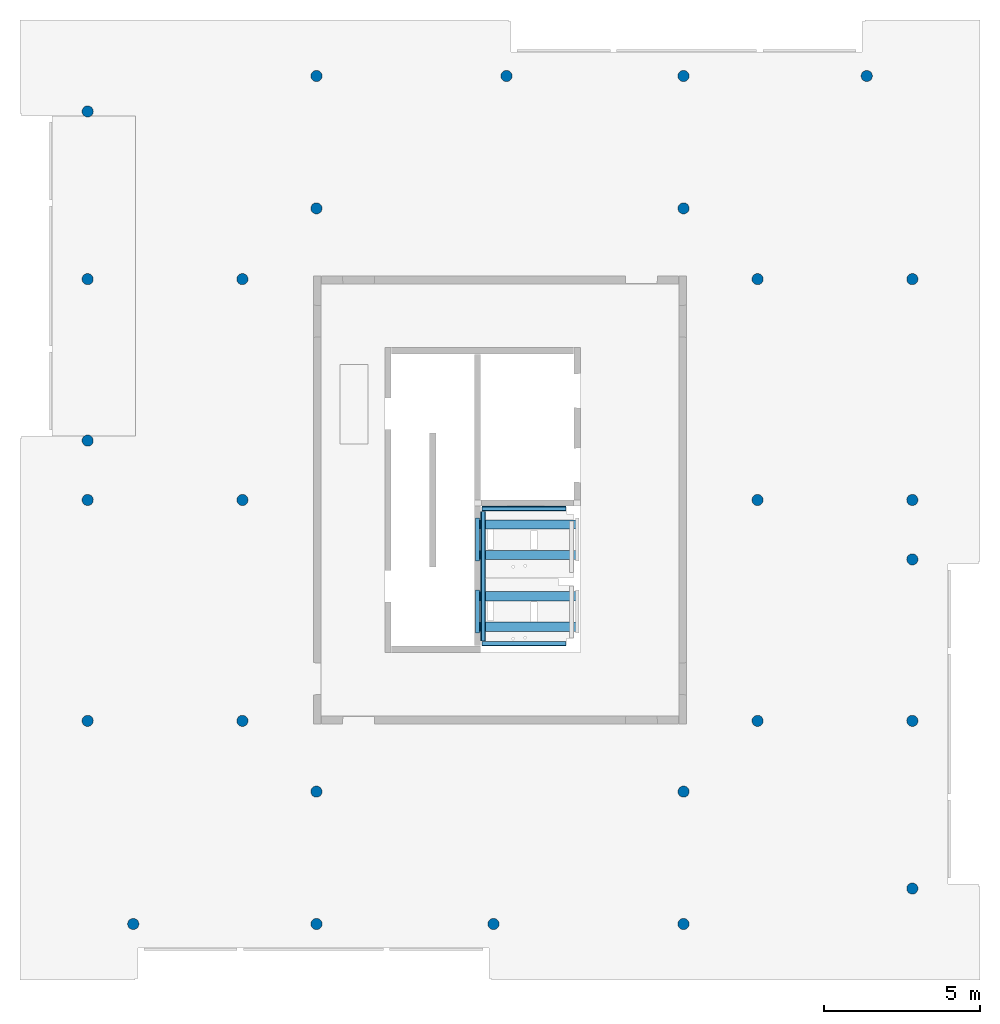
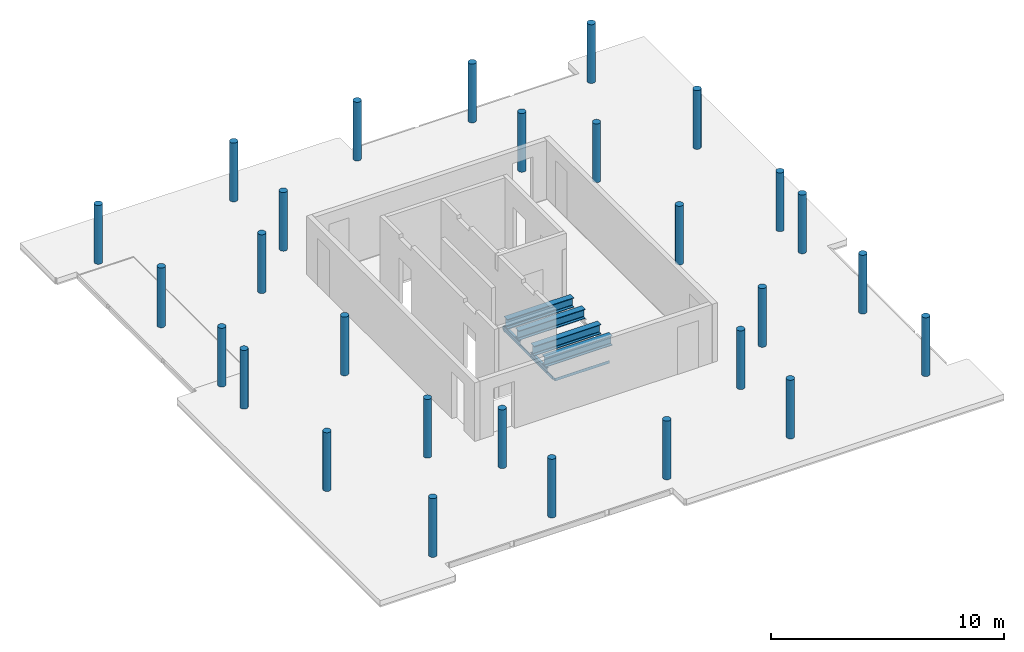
# One storey, part 1 of 4: 28 columns, 9 beams.
"""IFC2X3 building model written with IfcOpenShell, lengths in millimetres."""

from ifc_helpers import new_model, entity, si_unit, converted_unit, derived_unit, direction, frame, frame_2d, origin, origin_2d_with_axis, place, context, subcontext, project, spatial, polyline, circle_curve, parameter, trimmed, segment, composite_curve, circle, i_section, outline, extrude, source, transform, mapped, material, type_object, type_shapes, element, save


model = new_model("IFC2X3")

# Units and contexts
model_context = context("Model", 3, precision=0.01, world=origin(), true_north=direction((6.12303176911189e-17, 1.0)))
body_context = subcontext(model_context, "Body", "Model", "MODEL_VIEW")
ifc_project = project(units=[si_unit("LENGTHUNIT", "METRE", prefix="MILLI"), si_unit("AREAUNIT", "SQUARE_METRE"), si_unit("VOLUMEUNIT", "CUBIC_METRE"), converted_unit("PLANEANGLEUNIT", "DEGREE", entity("IfcRatioMeasure", 0.0174532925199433), si_unit("PLANEANGLEUNIT", "RADIAN"), dimensions=[0, 0, 0, 0, 0, 0, 0]), si_unit("MASSUNIT", "GRAM", prefix="KILO"), derived_unit("MASSDENSITYUNIT", [(si_unit("MASSUNIT", "GRAM", prefix="KILO"), 1), (si_unit("LENGTHUNIT", "METRE"), -3)]), si_unit("TIMEUNIT", "SECOND"), si_unit("FREQUENCYUNIT", "HERTZ"), si_unit("THERMODYNAMICTEMPERATUREUNIT", "DEGREE_CELSIUS"), derived_unit("THERMALTRANSMITTANCEUNIT", [(si_unit("MASSUNIT", "GRAM", prefix="KILO"), 1), (si_unit("THERMODYNAMICTEMPERATUREUNIT", "KELVIN"), -1), (si_unit("TIMEUNIT", "SECOND"), -3)]), derived_unit("VOLUMETRICFLOWRATEUNIT", [(si_unit("LENGTHUNIT", "METRE"), 3), (si_unit("TIMEUNIT", "SECOND"), -1)]), si_unit("ELECTRICCURRENTUNIT", "AMPERE"), si_unit("ELECTRICVOLTAGEUNIT", "VOLT"), si_unit("POWERUNIT", "WATT"), si_unit("FORCEUNIT", "NEWTON", prefix="KILO"), si_unit("ILLUMINANCEUNIT", "LUX"), si_unit("LUMINOUSFLUXUNIT", "LUMEN"), si_unit("LUMINOUSINTENSITYUNIT", "CANDELA"), derived_unit("USERDEFINED", [(si_unit("MASSUNIT", "GRAM", prefix="KILO"), -1), (si_unit("LENGTHUNIT", "METRE"), -2), (si_unit("TIMEUNIT", "SECOND"), 3), (si_unit("LUMINOUSFLUXUNIT", "LUMEN"), 1)]), derived_unit("LINEARVELOCITYUNIT", [(si_unit("LENGTHUNIT", "METRE"), 1), (si_unit("TIMEUNIT", "SECOND"), -1)]), si_unit("PRESSUREUNIT", "PASCAL"), derived_unit("USERDEFINED", [(si_unit("LENGTHUNIT", "METRE"), -2), (si_unit("MASSUNIT", "GRAM", prefix="KILO"), 1), (si_unit("TIMEUNIT", "SECOND"), -2)])], contexts=[model_context])

# Site, building, storey
site_placement = place(None, origin())
site = spatial("IfcSite", under=ifc_project, at=site_placement, Name="Default", CompositionType="ELEMENT")
building_placement = place(site_placement, origin())
building = spatial("IfcBuilding", under=site, at=building_placement, Name="niet gebruiken", CompositionType="ELEMENT")
storey_placement = place(building_placement, frame((0.0, 0.0, 175180.0)))
storey = spatial("IfcBuildingStorey", under=building, at=storey_placement, Name="56 zesenvijftigste verdieping", CompositionType="ELEMENT", Elevation=175180.0)

# Columns
ifc_material_1 = material(Name="NLRS_f2_beton prefab")
column_type_1 = type_object("IfcColumnType", Name="ø360", PredefinedType="COLUMN", material=ifc_material_1)
shared_shape_1 = source(origin(), body_context, "Body", "SweptSolid", [
    extrude(circle(Radius=179.999999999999, at=origin_2d_with_axis()), frame((135850.0, 31130.0, 175110.0), z_axis=(0.0, 0.0, 1.0), x_axis=(0.0, -1.0, 0.0)), (0.0, 0.0, 1.0), 3070.0),
])
type_shapes(column_type_1, [shared_shape_1])
column_1_placement = place(storey_placement, frame((0.0, 0.0, -175180.0)))
element("IfcColumn", 1, at=column_1_placement, inside=storey, type_object=column_type_1, material=ifc_material_1, Name="NLRS_28. kolom rond_gen:ø360", ObjectType="ø360", context=body_context, shape_type="MappedRepresentation", body=[
    mapped(shared_shape_1, transform((0.0, 0.0, 0.0), scale=1.0)),
])
column_type_2 = type_object("IfcColumnType", Name="ø360", PredefinedType="COLUMN", material=ifc_material_1)
shared_shape_2 = source(origin(), body_context, "Body", "SweptSolid", [
    extrude(circle(Radius=179.999999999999, at=origin_2d_with_axis()), frame((141960.0, 31130.0, 175110.0), z_axis=(0.0, 0.0, 1.0), x_axis=(0.0, -1.0, 0.0)), (0.0, 0.0, 1.0), 3070.0),
])
type_shapes(column_type_2, [shared_shape_2])
column_2_placement = place(storey_placement, frame((0.0, 0.0, -175180.0)))
element("IfcColumn", 2, at=column_2_placement, inside=storey, type_object=column_type_2, material=ifc_material_1, Name="NLRS_28. kolom rond_gen:ø360", ObjectType="ø360", context=body_context, shape_type="MappedRepresentation", body=[
    mapped(shared_shape_2, transform((0.0, 0.0, 0.0), scale=1.0)),
])
column_type_3 = type_object("IfcColumnType", Name="ø360", PredefinedType="COLUMN", material=ifc_material_1)
shared_shape_3 = source(origin(), body_context, "Body", "SweptSolid", [
    extrude(circle(Radius=179.999999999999, at=origin_2d_with_axis()), frame((147650.0, 31130.0, 175110.0), z_axis=(0.0, 0.0, 1.0), x_axis=(0.0, -1.0, 0.0)), (0.0, 0.0, 1.0), 3070.0),
])
type_shapes(column_type_3, [shared_shape_3])
column_3_placement = place(storey_placement, frame((0.0, 0.0, -175180.0)))
element("IfcColumn", 3, at=column_3_placement, inside=storey, type_object=column_type_3, material=ifc_material_1, Name="NLRS_28. kolom rond_gen:ø360", ObjectType="ø360", context=body_context, shape_type="MappedRepresentation", body=[
    mapped(shared_shape_3, transform((0.0, 0.0, 0.0), scale=1.0)),
])
column_type_4 = type_object("IfcColumnType", Name="ø360", PredefinedType="COLUMN", material=ifc_material_1)
shared_shape_4 = source(origin(), body_context, "Body", "SweptSolid", [
    extrude(circle(Radius=179.999999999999, at=origin_2d_with_axis()), frame((153540.0, 31130.0, 175110.0), z_axis=(0.0, 0.0, 1.0), x_axis=(0.0, -1.0, 0.0)), (0.0, 0.0, 1.0), 3070.0),
])
type_shapes(column_type_4, [shared_shape_4])
column_4_placement = place(storey_placement, frame((0.0, 0.0, -175180.0)))
element("IfcColumn", 4, at=column_4_placement, inside=storey, type_object=column_type_4, material=ifc_material_1, Name="NLRS_28. kolom rond_gen:ø360", ObjectType="ø360", context=body_context, shape_type="MappedRepresentation", body=[
    mapped(shared_shape_4, transform((0.0, 0.0, 0.0), scale=1.0)),
])
column_type_5 = type_object("IfcColumnType", Name="ø360", PredefinedType="COLUMN", material=ifc_material_1)
shared_shape_5 = source(origin(), body_context, "Body", "SweptSolid", [
    extrude(circle(Radius=179.999999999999, at=origin_2d_with_axis()), frame((133470.0, 24600.0, 175110.0), z_axis=(0.0, 0.0, 1.0), x_axis=(0.0, -1.0, 0.0)), (0.0, 0.0, 1.0), 3070.0),
])
type_shapes(column_type_5, [shared_shape_5])
column_5_placement = place(storey_placement, frame((0.0, 0.0, -175180.0)))
element("IfcColumn", 5, at=column_5_placement, inside=storey, type_object=column_type_5, material=ifc_material_1, Name="NLRS_28. kolom rond_gen:ø360", ObjectType="ø360", context=body_context, shape_type="MappedRepresentation", body=[
    mapped(shared_shape_5, transform((0.0, 0.0, 0.0), scale=1.0)),
])
column_type_6 = type_object("IfcColumnType", Name="ø360", PredefinedType="COLUMN", material=ifc_material_1)
shared_shape_6 = source(origin(), body_context, "Body", "SweptSolid", [
    extrude(circle(Radius=179.999999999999, at=origin_2d_with_axis()), frame((128495.0, 24600.0, 175060.0), z_axis=(0.0, 0.0, 1.0), x_axis=(0.0, -1.0, 0.0)), (0.0, 0.0, 1.0), 3120.00000000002),
])
type_shapes(column_type_6, [shared_shape_6])
column_6_placement = place(storey_placement, frame((0.0, 0.0, -175180.0)))
element("IfcColumn", 6, at=column_6_placement, inside=storey, type_object=column_type_6, material=ifc_material_1, Name="NLRS_28. kolom rond_gen:ø360", ObjectType="ø360", context=body_context, shape_type="MappedRepresentation", body=[
    mapped(shared_shape_6, transform((0.0, 0.0, 0.0), scale=1.0)),
])
column_type_7 = type_object("IfcColumnType", Name="ø360", PredefinedType="COLUMN", material=ifc_material_1)
shared_shape_7 = source(origin(), body_context, "Body", "SweptSolid", [
    extrude(circle(Radius=179.999999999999, at=origin_2d_with_axis()), frame((155005.0, 24600.0, 175110.0), z_axis=(0.0, 0.0, 1.0), x_axis=(0.0, -1.0, 0.0)), (0.0, 0.0, 1.0), 3070.0),
])
type_shapes(column_type_7, [shared_shape_7])
column_7_placement = place(storey_placement, frame((0.0, 0.0, -175180.0)))
element("IfcColumn", 7, at=column_7_placement, inside=storey, type_object=column_type_7, material=ifc_material_1, Name="NLRS_28. kolom rond_gen:ø360", ObjectType="ø360", context=body_context, shape_type="MappedRepresentation", body=[
    mapped(shared_shape_7, transform((0.0, 0.0, 0.0), scale=1.0)),
])
column_type_8 = type_object("IfcColumnType", Name="ø360", PredefinedType="COLUMN", material=ifc_material_1)
shared_shape_8 = source(origin(), body_context, "Body", "SweptSolid", [
    extrude(circle(Radius=179.999999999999, at=origin_2d_with_axis()), frame((150030.0, 24600.0, 175110.0), z_axis=(0.0, 0.0, 1.0), x_axis=(0.0, -1.0, 0.0)), (0.0, 0.0, 1.0), 3070.0),
])
type_shapes(column_type_8, [shared_shape_8])
column_8_placement = place(storey_placement, frame((0.0, 0.0, -175180.0)))
element("IfcColumn", 8, at=column_8_placement, inside=storey, type_object=column_type_8, material=ifc_material_1, Name="NLRS_28. kolom rond_gen:ø360", ObjectType="ø360", context=body_context, shape_type="MappedRepresentation", body=[
    mapped(shared_shape_8, transform((0.0, 0.0, 0.0), scale=1.0)),
])
column_type_9 = type_object("IfcColumnType", Name="ø360", PredefinedType="COLUMN", material=ifc_material_1)
shared_shape_9 = source(origin(), body_context, "Body", "SweptSolid", [
    extrude(circle(Radius=179.999999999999, at=origin_2d_with_axis()), frame((147650.0, 26875.0, 175110.0), z_axis=(0.0, 0.0, 1.0), x_axis=(0.0, -1.0, 0.0)), (0.0, 0.0, 1.0), 3070.0),
])
type_shapes(column_type_9, [shared_shape_9])
column_9_placement = place(storey_placement, frame((0.0, 0.0, -175180.0)))
element("IfcColumn", 9, at=column_9_placement, inside=storey, type_object=column_type_9, material=ifc_material_1, Name="NLRS_28. kolom rond_gen:ø360", ObjectType="ø360", context=body_context, shape_type="MappedRepresentation", body=[
    mapped(shared_shape_9, transform((0.0, 0.0, 0.0), scale=1.0)),
])
column_type_10 = type_object("IfcColumnType", Name="ø360", PredefinedType="COLUMN", material=ifc_material_1)
shared_shape_10 = source(origin(), body_context, "Body", "SweptSolid", [
    extrude(circle(Radius=179.999999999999, at=origin_2d_with_axis()), frame((135850.0, 26875.0, 175110.0), z_axis=(0.0, 0.0, 1.0), x_axis=(0.0, -1.0, 0.0)), (0.0, 0.0, 1.0), 3070.0),
])
type_shapes(column_type_10, [shared_shape_10])
column_10_placement = place(storey_placement, frame((0.0, 0.0, -175180.0)))
element("IfcColumn", 10, at=column_10_placement, inside=storey, type_object=column_type_10, material=ifc_material_1, Name="NLRS_28. kolom rond_gen:ø360", ObjectType="ø360", context=body_context, shape_type="MappedRepresentation", body=[
    mapped(shared_shape_10, transform((0.0, 0.0, 0.0), scale=1.0)),
])
column_type_11 = type_object("IfcColumnType", Name="ø360", PredefinedType="COLUMN", material=ifc_material_1)
shared_shape_11 = source(origin(), body_context, "Body", "SweptSolid", [
    extrude(circle(Radius=180.0, at=origin_2d_with_axis()), frame((128495.0, 19410.0, 175110.0), z_axis=(0.0, 0.0, 1.0), x_axis=(0.0, -1.0, 0.0)), (0.0, 0.0, 1.0), 3070.0),
])
type_shapes(column_type_11, [shared_shape_11])
column_11_placement = place(storey_placement, frame((0.0, 0.0, -175180.0)))
element("IfcColumn", 11, at=column_11_placement, inside=storey, type_object=column_type_11, material=ifc_material_1, Name="NLRS_28. kolom rond_gen:ø360", ObjectType="ø360", context=body_context, shape_type="MappedRepresentation", body=[
    mapped(shared_shape_11, transform((0.0, 0.0, 0.0), scale=1.0)),
])
column_type_12 = type_object("IfcColumnType", Name="ø360", PredefinedType="COLUMN", material=ifc_material_1)
shared_shape_12 = source(origin(), body_context, "Body", "SweptSolid", [
    extrude(circle(Radius=180.0, at=origin_2d_with_axis()), frame((128495.0, 17500.0, 175110.0), z_axis=(0.0, 0.0, 1.0), x_axis=(0.0, -1.0, 0.0)), (0.0, 0.0, 1.0), 3070.0),
])
type_shapes(column_type_12, [shared_shape_12])
column_12_placement = place(storey_placement, frame((0.0, 0.0, -175180.0)))
element("IfcColumn", 12, at=column_12_placement, inside=storey, type_object=column_type_12, material=ifc_material_1, Name="NLRS_28. kolom rond_gen:ø360", ObjectType="ø360", context=body_context, shape_type="MappedRepresentation", body=[
    mapped(shared_shape_12, transform((0.0, 0.0, 0.0), scale=1.0)),
])
column_type_13 = type_object("IfcColumnType", Name="ø360", PredefinedType="COLUMN", material=ifc_material_1)
shared_shape_13 = source(origin(), body_context, "Body", "SweptSolid", [
    extrude(circle(Radius=180.0, at=origin_2d_with_axis()), frame((133470.0, 17500.0, 175110.0), z_axis=(0.0, 0.0, 1.0), x_axis=(0.0, -1.0, 0.0)), (0.0, 0.0, 1.0), 3070.0),
])
type_shapes(column_type_13, [shared_shape_13])
column_13_placement = place(storey_placement, frame((0.0, 0.0, -175180.0)))
element("IfcColumn", 13, at=column_13_placement, inside=storey, type_object=column_type_13, material=ifc_material_1, Name="NLRS_28. kolom rond_gen:ø360", ObjectType="ø360", context=body_context, shape_type="MappedRepresentation", body=[
    mapped(shared_shape_13, transform((0.0, 0.0, 0.0), scale=1.0)),
])
column_type_14 = type_object("IfcColumnType", Name="ø360", PredefinedType="COLUMN", material=ifc_material_1)
shared_shape_14 = source(origin(), body_context, "Body", "SweptSolid", [
    extrude(circle(Radius=180.0, at=origin_2d_with_axis()), frame((150030.0, 17500.0, 175110.0), z_axis=(0.0, 0.0, 1.0), x_axis=(0.0, -1.0, 0.0)), (0.0, 0.0, 1.0), 3070.0),
])
type_shapes(column_type_14, [shared_shape_14])
column_14_placement = place(storey_placement, frame((0.0, 0.0, -175180.0)))
element("IfcColumn", 14, at=column_14_placement, inside=storey, type_object=column_type_14, material=ifc_material_1, Name="NLRS_28. kolom rond_gen:ø360", ObjectType="ø360", context=body_context, shape_type="MappedRepresentation", body=[
    mapped(shared_shape_14, transform((0.0, 0.0, 0.0), scale=1.0)),
])
column_type_15 = type_object("IfcColumnType", Name="ø360", PredefinedType="COLUMN", material=ifc_material_1)
shared_shape_15 = source(origin(), body_context, "Body", "SweptSolid", [
    extrude(circle(Radius=180.0, at=origin_2d_with_axis()), frame((155005.0, 17500.0, 175110.0), z_axis=(0.0, 0.0, 1.0), x_axis=(0.0, -1.0, 0.0)), (0.0, 0.0, 1.0), 3070.0),
])
type_shapes(column_type_15, [shared_shape_15])
column_15_placement = place(storey_placement, frame((0.0, 0.0, -175180.0)))
element("IfcColumn", 15, at=column_15_placement, inside=storey, type_object=column_type_15, material=ifc_material_1, Name="NLRS_28. kolom rond_gen:ø360", ObjectType="ø360", context=body_context, shape_type="MappedRepresentation", body=[
    mapped(shared_shape_15, transform((0.0, 0.0, 0.0), scale=1.0)),
])
column_type_16 = type_object("IfcColumnType", Name="ø360", PredefinedType="COLUMN", material=ifc_material_1)
shared_shape_16 = source(origin(), body_context, "Body", "SweptSolid", [
    extrude(circle(Radius=180.0, at=origin_2d_with_axis()), frame((155005.0, 15590.0, 175110.0), z_axis=(0.0, 0.0, 1.0), x_axis=(0.0, -1.0, 0.0)), (0.0, 0.0, 1.0), 3070.0),
])
type_shapes(column_type_16, [shared_shape_16])
column_16_placement = place(storey_placement, frame((0.0, 0.0, -175180.0)))
element("IfcColumn", 16, at=column_16_placement, inside=storey, type_object=column_type_16, material=ifc_material_1, Name="NLRS_28. kolom rond_gen:ø360", ObjectType="ø360", context=body_context, shape_type="MappedRepresentation", body=[
    mapped(shared_shape_16, transform((0.0, 0.0, 0.0), scale=1.0)),
])
column_type_17 = type_object("IfcColumnType", Name="ø360", PredefinedType="COLUMN", material=ifc_material_1)
shared_shape_17 = source(origin(), body_context, "Body", "SweptSolid", [
    extrude(circle(Radius=180.0, at=origin_2d_with_axis()), frame((155005.0, 10400.0, 175110.0), z_axis=(0.0, 0.0, 1.0), x_axis=(0.0, -1.0, 0.0)), (0.0, 0.0, 1.0), 3070.0),
])
type_shapes(column_type_17, [shared_shape_17])
column_17_placement = place(storey_placement, frame((0.0, 0.0, -175180.0)))
element("IfcColumn", 17, at=column_17_placement, inside=storey, type_object=column_type_17, material=ifc_material_1, Name="NLRS_28. kolom rond_gen:ø360", ObjectType="ø360", context=body_context, shape_type="MappedRepresentation", body=[
    mapped(shared_shape_17, transform((0.0, 0.0, 0.0), scale=1.0)),
])
column_type_18 = type_object("IfcColumnType", Name="ø360", PredefinedType="COLUMN", material=ifc_material_1)
shared_shape_18 = source(origin(), body_context, "Body", "SweptSolid", [
    extrude(circle(Radius=180.0, at=origin_2d_with_axis()), frame((150030.0, 10400.0, 175110.0), z_axis=(0.0, 0.0, 1.0), x_axis=(0.0, -1.0, 0.0)), (0.0, 0.0, 1.0), 3070.0),
])
type_shapes(column_type_18, [shared_shape_18])
column_18_placement = place(storey_placement, frame((0.0, 0.0, -175180.0)))
element("IfcColumn", 18, at=column_18_placement, inside=storey, type_object=column_type_18, material=ifc_material_1, Name="NLRS_28. kolom rond_gen:ø360", ObjectType="ø360", context=body_context, shape_type="MappedRepresentation", body=[
    mapped(shared_shape_18, transform((0.0, 0.0, 0.0), scale=1.0)),
])
column_type_19 = type_object("IfcColumnType", Name="ø360", PredefinedType="COLUMN", material=ifc_material_1)
shared_shape_19 = source(origin(), body_context, "Body", "SweptSolid", [
    extrude(circle(Radius=180.0, at=origin_2d_with_axis()), frame((133470.0, 10400.0, 175110.0), z_axis=(0.0, 0.0, 1.0), x_axis=(0.0, -1.0, 0.0)), (0.0, 0.0, 1.0), 3070.0),
])
type_shapes(column_type_19, [shared_shape_19])
column_19_placement = place(storey_placement, frame((0.0, 0.0, -175180.0)))
element("IfcColumn", 19, at=column_19_placement, inside=storey, type_object=column_type_19, material=ifc_material_1, Name="NLRS_28. kolom rond_gen:ø360", ObjectType="ø360", context=body_context, shape_type="MappedRepresentation", body=[
    mapped(shared_shape_19, transform((0.0, 0.0, 0.0), scale=1.0)),
])
column_type_20 = type_object("IfcColumnType", Name="ø360", PredefinedType="COLUMN", material=ifc_material_1)
shared_shape_20 = source(origin(), body_context, "Body", "SweptSolid", [
    extrude(circle(Radius=180.0, at=origin_2d_with_axis()), frame((128495.0, 10400.0, 175110.0), z_axis=(0.0, 0.0, 1.0), x_axis=(0.0, -1.0, 0.0)), (0.0, 0.0, 1.0), 3070.0),
])
type_shapes(column_type_20, [shared_shape_20])
column_20_placement = place(storey_placement, frame((0.0, 0.0, -175180.0)))
element("IfcColumn", 20, at=column_20_placement, inside=storey, type_object=column_type_20, material=ifc_material_1, Name="NLRS_28. kolom rond_gen:ø360", ObjectType="ø360", context=body_context, shape_type="MappedRepresentation", body=[
    mapped(shared_shape_20, transform((0.0, 0.0, 0.0), scale=1.0)),
])
column_type_21 = type_object("IfcColumnType", Name="ø360", PredefinedType="COLUMN", material=ifc_material_1)
shared_shape_21 = source(origin(), body_context, "Body", "SweptSolid", [
    extrude(circle(Radius=180.0, at=origin_2d_with_axis()), frame((147650.0, 8125.0, 175110.0), z_axis=(0.0, 0.0, 1.0), x_axis=(0.0, -1.0, 0.0)), (0.0, 0.0, 1.0), 3070.0),
])
type_shapes(column_type_21, [shared_shape_21])
column_21_placement = place(storey_placement, frame((0.0, 0.0, -175180.0)))
element("IfcColumn", 21, at=column_21_placement, inside=storey, type_object=column_type_21, material=ifc_material_1, Name="NLRS_28. kolom rond_gen:ø360", ObjectType="ø360", context=body_context, shape_type="MappedRepresentation", body=[
    mapped(shared_shape_21, transform((0.0, 0.0, 0.0), scale=1.0)),
])
column_type_22 = type_object("IfcColumnType", Name="ø360", PredefinedType="COLUMN", material=ifc_material_1)
shared_shape_22 = source(origin(), body_context, "Body", "SweptSolid", [
    extrude(circle(Radius=180.0, at=origin_2d_with_axis()), frame((135850.0, 8125.0, 175110.0), z_axis=(0.0, 0.0, 1.0), x_axis=(0.0, -1.0, 0.0)), (0.0, 0.0, 1.0), 3070.0),
])
type_shapes(column_type_22, [shared_shape_22])
column_22_placement = place(storey_placement, frame((0.0, 0.0, -175180.0)))
element("IfcColumn", 22, at=column_22_placement, inside=storey, type_object=column_type_22, material=ifc_material_1, Name="NLRS_28. kolom rond_gen:ø360", ObjectType="ø360", context=body_context, shape_type="MappedRepresentation", body=[
    mapped(shared_shape_22, transform((0.0, 0.0, 0.0), scale=1.0)),
])
column_type_23 = type_object("IfcColumnType", Name="ø360", PredefinedType="COLUMN", material=ifc_material_1)
shared_shape_23 = source(origin(), body_context, "Body", "SweptSolid", [
    extrude(circle(Radius=180.0, at=frame_2d((5.41433564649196e-13, 0.0), x_axis=(1.0, 0.0))), frame((147650.0, 3870.0, 175110.0), z_axis=(0.0, 0.0, 1.0), x_axis=(0.0, -1.0, 0.0)), (0.0, 0.0, 1.0), 3070.0),
])
type_shapes(column_type_23, [shared_shape_23])
column_23_placement = place(storey_placement, frame((0.0, 0.0, -175180.0)))
element("IfcColumn", 23, at=column_23_placement, inside=storey, type_object=column_type_23, material=ifc_material_1, Name="NLRS_28. kolom rond_gen:ø360", ObjectType="ø360", context=body_context, shape_type="MappedRepresentation", body=[
    mapped(shared_shape_23, transform((0.0, 0.0, 0.0), scale=1.0)),
])
column_type_24 = type_object("IfcColumnType", Name="ø360", PredefinedType="COLUMN", material=ifc_material_1)
shared_shape_24 = source(origin(), body_context, "Body", "SweptSolid", [
    extrude(circle(Radius=180.0, at=frame_2d((5.41433564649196e-13, 0.0), x_axis=(1.0, 0.0))), frame((141540.0, 3870.0, 175110.0), z_axis=(0.0, 0.0, 1.0), x_axis=(0.0, -1.0, 0.0)), (0.0, 0.0, 1.0), 3070.0),
])
type_shapes(column_type_24, [shared_shape_24])
column_24_placement = place(storey_placement, frame((0.0, 0.0, -175180.0)))
element("IfcColumn", 24, at=column_24_placement, inside=storey, type_object=column_type_24, material=ifc_material_1, Name="NLRS_28. kolom rond_gen:ø360", ObjectType="ø360", context=body_context, shape_type="MappedRepresentation", body=[
    mapped(shared_shape_24, transform((0.0, 0.0, 0.0), scale=1.0)),
])
column_type_25 = type_object("IfcColumnType", Name="ø360", PredefinedType="COLUMN", material=ifc_material_1)
shared_shape_25 = source(origin(), body_context, "Body", "SweptSolid", [
    extrude(circle(Radius=180.0, at=frame_2d((5.41433564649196e-13, 0.0), x_axis=(1.0, 0.0))), frame((135850.0, 3870.0, 175110.0), z_axis=(0.0, 0.0, 1.0), x_axis=(0.0, -1.0, 0.0)), (0.0, 0.0, 1.0), 3070.0),
])
type_shapes(column_type_25, [shared_shape_25])
column_25_placement = place(storey_placement, frame((0.0, 0.0, -175180.0)))
element("IfcColumn", 25, at=column_25_placement, inside=storey, type_object=column_type_25, material=ifc_material_1, Name="NLRS_28. kolom rond_gen:ø360", ObjectType="ø360", context=body_context, shape_type="MappedRepresentation", body=[
    mapped(shared_shape_25, transform((0.0, 0.0, 0.0), scale=1.0)),
])
column_type_26 = type_object("IfcColumnType", Name="ø360", PredefinedType="COLUMN", material=ifc_material_1)
shared_shape_26 = source(origin(), body_context, "Body", "SweptSolid", [
    extrude(circle(Radius=180.0, at=origin_2d_with_axis()), frame((129960.0, 3870.0, 175110.0), z_axis=(0.0, 0.0, 1.0), x_axis=(0.0, -1.0, 0.0)), (0.0, 0.0, 1.0), 3070.0),
])
type_shapes(column_type_26, [shared_shape_26])
column_26_placement = place(storey_placement, frame((0.0, 0.0, -175180.0)))
element("IfcColumn", 26, at=column_26_placement, inside=storey, type_object=column_type_26, material=ifc_material_1, Name="NLRS_28. kolom rond_gen:ø360", ObjectType="ø360", context=body_context, shape_type="MappedRepresentation", body=[
    mapped(shared_shape_26, transform((0.0, 0.0, 0.0), scale=1.0)),
])
column_type_27 = type_object("IfcColumnType", Name="ø360", PredefinedType="COLUMN", material=ifc_material_1)
shared_shape_27 = source(origin(), body_context, "Body", "SweptSolid", [
    extrude(circle(Radius=180.0, at=origin_2d_with_axis()), frame((155005.0, 5010.0, 175110.0), z_axis=(0.0, 0.0, 1.0), x_axis=(0.0, -1.0, 0.0)), (0.0, 0.0, 1.0), 3070.0),
])
type_shapes(column_type_27, [shared_shape_27])
column_27_placement = place(storey_placement, frame((0.0, 0.0, -175180.0)))
element("IfcColumn", 27, at=column_27_placement, inside=storey, type_object=column_type_27, material=ifc_material_1, Name="NLRS_28. kolom rond_gen:ø360", ObjectType="ø360", context=body_context, shape_type="MappedRepresentation", body=[
    mapped(shared_shape_27, transform((0.0, 0.0, 0.0), scale=1.0)),
])
column_type_28 = type_object("IfcColumnType", Name="ø360", PredefinedType="COLUMN", material=ifc_material_1)
shared_shape_28 = source(origin(), body_context, "Body", "SweptSolid", [
    extrude(circle(Radius=179.999999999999, at=origin_2d_with_axis()), frame((128495.0, 29990.0, 175110.0), z_axis=(0.0, 0.0, 1.0), x_axis=(0.0, -1.0, 0.0)), (0.0, 0.0, 1.0), 3070.0),
])
type_shapes(column_type_28, [shared_shape_28])
column_28_placement = place(storey_placement, frame((0.0, 0.0, -175180.0)))
element("IfcColumn", 28, at=column_28_placement, inside=storey, type_object=column_type_28, material=ifc_material_1, Name="NLRS_28. kolom rond_gen:ø360", ObjectType="ø360", context=body_context, shape_type="MappedRepresentation", body=[
    mapped(shared_shape_28, transform((0.0, 0.0, 0.0), scale=1.0)),
])

# Beams
ifc_material_2 = material(Name="NLRS_h2_staal")
beam_type_1 = type_object("IfcBeamType", Name="NLRS_28.11_SF_WPB_stalen ligger HEB_gen:ligger HEB 500", PredefinedType="BEAM")
beam_1_placement = place(storey_placement, frame((140978.0, 13423.5, 680.0)))
element("IfcBeam", 29, at=beam_1_placement, inside=storey, type_object=beam_type_1, material=ifc_material_2, Name="NLRS_28.11_SF_WPB_stalen ligger HEB_gen:ligger HEB 500", ObjectType="NLRS_28.11_SF_WPB_stalen ligger HEB_gen:ligger HEB 500", context=body_context, shape_type="SweptSolid", body=[
    extrude(i_section(OverallWidth=300.00000000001, OverallDepth=500.000000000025, WebThickness=14.4999999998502, FlangeThickness=27.9999999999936, FilletRadius=27.0000000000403, at=frame_2d((0.0, -2.1600499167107e-12), x_axis=(0.0, 1.0))), frame((0.0, 0.0, -250.0), z_axis=(1.0, 0.0, 0.0), x_axis=(0.0, 0.0, -1.0)), (0.0, 0.0, 1.0), 3300.0),
])
beam_2_placement = place(storey_placement, frame((140978.0, 14403.5, 680.0)))
element("IfcBeam", 30, at=beam_2_placement, inside=storey, type_object=beam_type_1, material=ifc_material_2, Name="NLRS_28.11_SF_WPB_stalen ligger HEB_gen:ligger HEB 500", ObjectType="NLRS_28.11_SF_WPB_stalen ligger HEB_gen:ligger HEB 500", context=body_context, shape_type="SweptSolid", body=[
    extrude(i_section(OverallWidth=300.00000000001, OverallDepth=500.000000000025, WebThickness=14.4999999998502, FlangeThickness=27.9999999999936, FilletRadius=27.0000000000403, at=frame_2d((0.0, 2.1600499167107e-12), x_axis=(0.0, 1.0))), frame((0.0, 0.0, -250.0), z_axis=(1.0, 0.0, 0.0), x_axis=(0.0, 0.0, -1.0)), (0.0, 0.0, 1.0), 3300.0),
])
beam_3_placement = place(storey_placement, frame((140978.0, 15733.5, 680.0)))
element("IfcBeam", 31, at=beam_3_placement, inside=storey, type_object=beam_type_1, material=ifc_material_2, Name="NLRS_28.11_SF_WPB_stalen ligger HEB_gen:ligger HEB 500", ObjectType="NLRS_28.11_SF_WPB_stalen ligger HEB_gen:ligger HEB 500", context=body_context, shape_type="SweptSolid", body=[
    extrude(i_section(OverallWidth=300.00000000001, OverallDepth=500.000000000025, WebThickness=14.4999999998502, FlangeThickness=27.9999999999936, FilletRadius=27.0000000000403, at=frame_2d((0.0, 0.0), x_axis=(0.0, 1.0))), frame((0.0, 0.0, -250.0), z_axis=(1.0, 0.0, 0.0), x_axis=(0.0, 0.0, -1.0)), (0.0, 0.0, 1.0), 3300.0),
])
beam_4_placement = place(storey_placement, frame((140978.0, 16713.5, 680.0)))
element("IfcBeam", 32, at=beam_4_placement, inside=storey, type_object=beam_type_1, material=ifc_material_2, Name="NLRS_28.11_SF_WPB_stalen ligger HEB_gen:ligger HEB 500", ObjectType="NLRS_28.11_SF_WPB_stalen ligger HEB_gen:ligger HEB 500", context=body_context, shape_type="SweptSolid", body=[
    extrude(i_section(OverallWidth=300.00000000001, OverallDepth=500.000000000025, WebThickness=14.4999999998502, FlangeThickness=27.9999999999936, FilletRadius=27.0000000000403, at=frame_2d((0.0, 2.1600499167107e-12), x_axis=(0.0, 1.0))), frame((0.0, 0.0, -250.0), z_axis=(1.0, 0.0, 0.0), x_axis=(0.0, 0.0, -1.0)), (0.0, 0.0, 1.0), 3300.0),
])
beam_type_2 = type_object("IfcBeamType", Name="NLRS_28.11_SF_WPB_stalen ligger IPE_gen:ligger IPE 240", PredefinedType="BEAM")
for number, where, z_axis, x_axis, name in (
    (33, (141030.0, 13223.5, 170.0), (0.0, 0.0, 1.0), (0.0, 1.0, 0.0), "NLRS_28.11_SF_WPB_stalen ligger IPE_gen:ligger IPE 240"),
    (34, (141030.0, 15533.5, 170.0), (0.0, 0.0, 1.0), (0.0, 1.0, 0.0), "NLRS_28.11_SF_WPB_stalen ligger IPE_gen:ligger IPE 240"),
):
    element("IfcBeam", number, at=place(storey_placement, frame(where, z_axis=z_axis, x_axis=x_axis)), inside=storey, type_object=beam_type_2, material=ifc_material_2, Name=name, ObjectType="NLRS_28.11_SF_WPB_stalen ligger IPE_gen:ligger IPE 240", context=body_context, shape_type="SweptSolid", body=[
        extrude(i_section(OverallWidth=120.000000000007, OverallDepth=240.000000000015, WebThickness=6.20000000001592, FlangeThickness=9.8000000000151, FilletRadius=15.0000000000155, at=frame_2d((3.46531692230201e-11, 1.732658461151e-11), x_axis=(0.0, 1.0))), frame((0.0, 0.0, -120.0), z_axis=(1.0, 0.0, 0.0), x_axis=(0.0, 0.0, -1.0)), (0.0, 0.0, 1.0), 1380.0),
    ])
beam_type_3 = type_object("IfcBeamType", Name="NLRS_28.11_SF_WPB_stalen ligger hoekprofiel gelijkzijdig_gen:ligger gelijzijdig hoekprofiel LEQU_150x150x12", PredefinedType="BEAM")
beam_5_placement = place(storey_placement, frame((141165.0, 12800.0, -320.0)))
element("IfcBeam", 35, at=beam_5_placement, inside=storey, type_object=beam_type_3, material=ifc_material_2, Name="NLRS_28.11_SF_WPB_stalen ligger hoekprofiel gelijkzijdig_gen:ligger gelijzijdig hoekprofiel LEQU_150x150x12", ObjectType="NLRS_28.11_SF_WPB_stalen ligger hoekprofiel gelijkzijdig_gen:ligger gelijzijdig hoekprofiel LEQU_150x150x12", context=body_context, shape_type="SweptSolid", body=[
    extrude(outline(composite_curve([segment(polyline([(-94.6666666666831, -56.6666666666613), (55.3333333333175, -56.6666666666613)]), True, "CONTINUOUS"), segment(polyline([(55.3333333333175, -56.66666666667), (55.3333333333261, 93.3333333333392)]), True, "CONTINUOUS"), segment(polyline([(55.3333333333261, 93.3333333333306), (51.3333333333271, 93.3333333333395)]), True, "CONTINUOUS"), segment(trimmed(circle_curve(frame_2d((51.3333333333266, 85.3333333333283), x_axis=(0.0, 1.0)), 8.00000000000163), [parameter(0.0)], [parameter(89.9999999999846)], True, "PARAMETER"), True, "CONTINUOUS"), segment(polyline([(43.3333333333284, 85.3333333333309), (43.333333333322, -25.666666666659)]), True, "CONTINUOUS"), segment(trimmed(circle_curve(frame_2d((27.3333333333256, -25.6666666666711), x_axis=(1.0, 0.0)), 15.9999999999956), [parameter(269.999999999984)], [parameter(0.0)], True, "PARAMETER"), False, "CONTINUOUS"), segment(polyline([(27.3333333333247, -41.6666666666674), (-86.666666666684, -41.6666666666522)]), True, "CONTINUOUS"), segment(trimmed(circle_curve(frame_2d((-86.6666666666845, -49.6666666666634), x_axis=(0.0, 1.0)), 8.00000000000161), [parameter(0.0)], [parameter(89.9999999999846)], True, "PARAMETER"), True, "CONTINUOUS"), segment(polyline([(-94.6666666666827, -49.6666666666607), (-94.6666666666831, -56.6666666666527)]), True, "CONTINUOUS")], self_intersect=False)), frame((0.0, 56.6666666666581, 55.3333333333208), z_axis=(1.0, 0.0, 0.0), x_axis=(0.0, 0.0, -1.0)), (0.0, 0.0, 1.0), 2700.00000000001),
])
beam_6_placement = place(storey_placement, frame((143865.0, 17300.0, -320.0), z_axis=(0.0, 0.0, 1.0), x_axis=(-1.0, 0.0, 0.0)))
element("IfcBeam", 36, at=beam_6_placement, inside=storey, type_object=beam_type_3, material=ifc_material_2, Name="NLRS_28.11_SF_WPB_stalen ligger hoekprofiel gelijkzijdig_gen:ligger gelijzijdig hoekprofiel LEQU_150x150x12", ObjectType="NLRS_28.11_SF_WPB_stalen ligger hoekprofiel gelijkzijdig_gen:ligger gelijzijdig hoekprofiel LEQU_150x150x12", context=body_context, shape_type="SweptSolid", body=[
    extrude(outline(composite_curve([segment(polyline([(-94.666666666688, -56.6666666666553), (55.3333333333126, -56.6666666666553)]), True, "CONTINUOUS"), segment(polyline([(55.3333333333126, -56.6666666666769), (55.3333333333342, 93.3333333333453)]), True, "CONTINUOUS"), segment(polyline([(55.3333333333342, 93.3333333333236), (51.3333333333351, 93.3333333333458)]), True, "CONTINUOUS"), segment(trimmed(circle_curve(frame_2d((51.333333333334, 85.3333333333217), x_axis=(0.0, 1.0)), 8.00000000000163), [parameter(0.0)], [parameter(89.9999999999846)], True, "PARAMETER"), True, "CONTINUOUS"), segment(polyline([(43.3333333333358, 85.333333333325), (43.3333333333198, -25.6666666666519)]), True, "CONTINUOUS"), segment(trimmed(circle_curve(frame_2d((27.3333333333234, -25.6666666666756), x_axis=(1.0, 0.0)), 15.9999999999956), [parameter(269.999999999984)], [parameter(0.0)], True, "PARAMETER"), False, "CONTINUOUS"), segment(polyline([(27.3333333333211, -41.666666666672), (-86.6666666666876, -41.6666666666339)]), True, "CONTINUOUS"), segment(trimmed(circle_curve(frame_2d((-86.6666666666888, -49.666666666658), x_axis=(0.0, 1.0)), 8.00000000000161), [parameter(0.0)], [parameter(89.9999999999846)], True, "PARAMETER"), True, "CONTINUOUS"), segment(polyline([(-94.666666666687, -49.6666666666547), (-94.666666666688, -56.6666666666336)]), True, "CONTINUOUS")], self_intersect=False)), frame((0.0, 56.6666666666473, 55.3333333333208), z_axis=(1.0, 0.0, 0.0), x_axis=(0.0, 0.0, -1.0)), (0.0, 0.0, 1.0), 2700.00000000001),
])
beam_7_placement = place(storey_placement, frame((141130.0, 17135.0, -320.0), z_axis=(0.0, 0.0, 1.0), x_axis=(0.0, -1.0, 0.0)))
element("IfcBeam", 37, at=beam_7_placement, inside=storey, type_object=beam_type_3, material=ifc_material_2, Name="NLRS_28.11_SF_WPB_stalen ligger hoekprofiel gelijkzijdig_gen:ligger gelijzijdig hoekprofiel LEQU_150x150x12", ObjectType="NLRS_28.11_SF_WPB_stalen ligger hoekprofiel gelijkzijdig_gen:ligger gelijzijdig hoekprofiel LEQU_150x150x12", context=body_context, shape_type="SweptSolid", body=[
    extrude(outline(composite_curve([segment(polyline([(-94.6666666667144, -56.6666666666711), (55.3333333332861, -56.6666666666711)]), True, "CONTINUOUS"), segment(polyline([(55.3333333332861, -56.6666666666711), (55.3333333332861, 93.3333333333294)]), True, "CONTINUOUS"), segment(polyline([(55.3333333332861, 93.3333333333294), (51.333333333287, 93.3333333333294)]), True, "CONTINUOUS"), segment(trimmed(circle_curve(frame_2d((51.333333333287, 85.3333333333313), x_axis=(0.0, 1.0)), 7.99999999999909), [parameter(0.0)], [parameter(90.0000000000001)], True, "PARAMETER"), True, "CONTINUOUS"), segment(polyline([(43.3333333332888, 85.3333333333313), (43.3333333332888, -25.6666666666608)]), True, "CONTINUOUS"), segment(trimmed(circle_curve(frame_2d((27.3333333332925, -25.6666666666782), x_axis=(1.0, 0.0)), 15.9999999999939), [parameter(270.0)], [parameter(0.0)], True, "PARAMETER"), False, "CONTINUOUS"), segment(polyline([(27.3333333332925, -41.6666666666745), (-86.6666666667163, -41.6666666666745)]), True, "CONTINUOUS"), segment(trimmed(circle_curve(frame_2d((-86.6666666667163, -49.6666666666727), x_axis=(0.0, 1.0)), 7.9999999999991), [parameter(0.0)], [parameter(90.0000000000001)], True, "PARAMETER"), True, "CONTINUOUS"), segment(polyline([(-94.6666666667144, -49.6666666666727), (-94.6666666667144, -56.6666666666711)]), True, "CONTINUOUS")], self_intersect=False)), frame((0.0, 56.6666666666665, 55.3333333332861), z_axis=(1.0, 0.0, 0.0), x_axis=(0.0, 0.0, -1.0)), (0.0, 0.0, 1.0), 4170.0),
])

save(model, "model.ifc")
